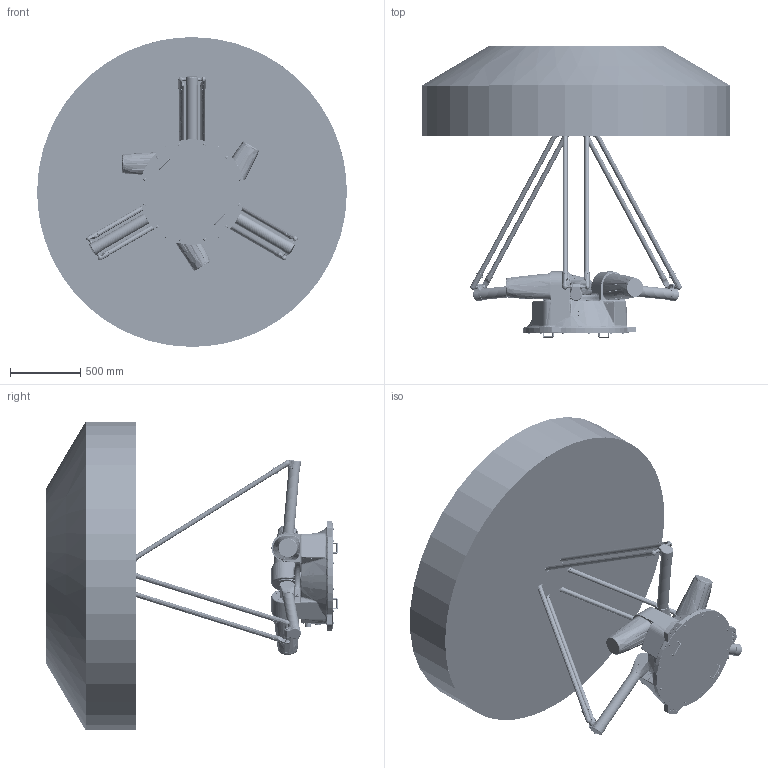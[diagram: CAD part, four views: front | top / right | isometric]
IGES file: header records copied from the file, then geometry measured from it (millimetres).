
Start section: SolidWorks IGES file using analytic representation for surfaces
Bounding box: 2199.92 x 2071 x 2199.92 mm (x, y, z)
Surface area: 17500268.1 mm2 (no closed solid volume)
Topology: 0 solids, 0 shells, 9238 faces, 139846 edges, 139370 vertices
Faces by surface type: bspline 5012, revolution 4226
